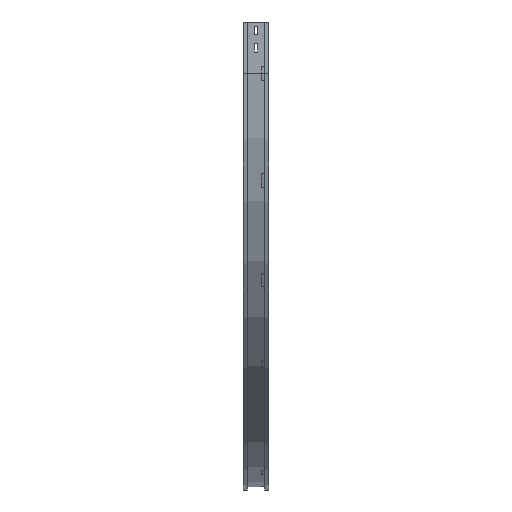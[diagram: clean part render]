
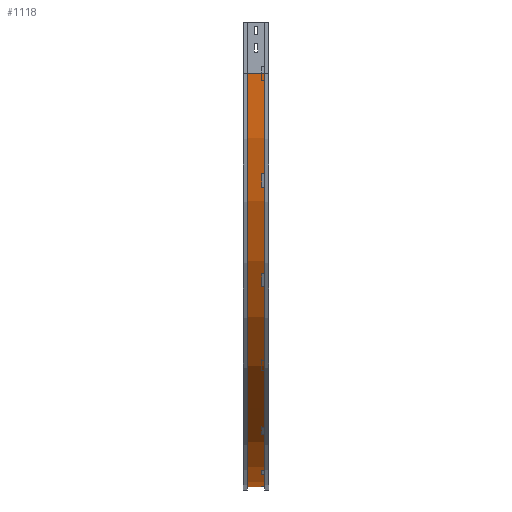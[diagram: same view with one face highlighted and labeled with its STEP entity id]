
A CAD part, left-side view. The second image highlights one B-rep face of the part: STEP entity #1118.
In plain terms, the highlighted cylindrical face has radius 1200 mm (diameter 2400 mm), a partial arc.
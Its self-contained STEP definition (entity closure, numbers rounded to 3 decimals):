
#30 = CARTESIAN_POINT ( 'NONE',  ( 1209., 12., -150. ) ) ;
#96 = EDGE_CURVE ( 'NONE', #876, #2362, #99, .T. ) ;
#99 = CIRCLE ( 'NONE', #2875, 1200. ) ;
#238 = CARTESIAN_POINT ( 'NONE',  ( 1209., 12., -1350. ) ) ;
#293 = DIRECTION ( 'NONE',  ( 0., -1., 0. ) ) ;
#496 = LINE ( 'NONE', #3165, #1750 ) ;
#502 = EDGE_CURVE ( 'NONE', #1424, #1576, #3446, .T. ) ;
#570 = CARTESIAN_POINT ( 'NONE',  ( 9., 63., -150. ) ) ;
#853 = CARTESIAN_POINT ( 'NONE',  ( 1209., 12., -1350. ) ) ;
#858 = CARTESIAN_POINT ( 'NONE',  ( 1209., 63., -150. ) ) ;
#876 = VERTEX_POINT ( 'NONE', #570 ) ;
#884 = AXIS2_PLACEMENT_3D ( 'NONE', #30, #293, #1593 ) ;
#927 = AXIS2_PLACEMENT_3D ( 'NONE', #2307, #2011, #3115 ) ;
#1113 = ORIENTED_EDGE ( 'NONE', *, *, #502, .F. ) ;
#1118 = ADVANCED_FACE ( 'NONE', ( #1535 ), #2841, .T. ) ;
#1418 = VECTOR ( 'NONE', #2976, 1000. ) ;
#1424 = VERTEX_POINT ( 'NONE', #3348 ) ;
#1468 = ORIENTED_EDGE ( 'NONE', *, *, #2244, .T. ) ;
#1497 = EDGE_LOOP ( 'NONE', ( #1113, #2556, #2278, #1468 ) ) ;
#1535 = FACE_OUTER_BOUND ( 'NONE', #1497, .T. ) ;
#1568 = DIRECTION ( 'NONE',  ( 0., -1., 0. ) ) ;
#1576 = VERTEX_POINT ( 'NONE', #238 ) ;
#1593 = DIRECTION ( 'NONE',  ( -1., 0., 0. ) ) ;
#1736 = CARTESIAN_POINT ( 'NONE',  ( 1209., 63., -1350. ) ) ;
#1750 = VECTOR ( 'NONE', #1568, 1000. ) ;
#2011 = DIRECTION ( 'NONE',  ( 0., -1., 0. ) ) ;
#2244 = EDGE_CURVE ( 'NONE', #2362, #1576, #3233, .T. ) ;
#2278 = ORIENTED_EDGE ( 'NONE', *, *, #96, .T. ) ;
#2307 = CARTESIAN_POINT ( 'NONE',  ( 1209., 0., -150. ) ) ;
#2362 = VERTEX_POINT ( 'NONE', #1736 ) ;
#2486 = EDGE_CURVE ( 'NONE', #876, #1424, #496, .T. ) ;
#2556 = ORIENTED_EDGE ( 'NONE', *, *, #2486, .F. ) ;
#2694 = DIRECTION ( 'NONE',  ( -1., 0., 0. ) ) ;
#2841 = CYLINDRICAL_SURFACE ( 'NONE', #927, 1200. ) ;
#2875 = AXIS2_PLACEMENT_3D ( 'NONE', #858, #2937, #2694 ) ;
#2937 = DIRECTION ( 'NONE',  ( 0., -1., 0. ) ) ;
#2976 = DIRECTION ( 'NONE',  ( 0., -1., 0. ) ) ;
#3115 = DIRECTION ( 'NONE',  ( 0., 0., -1. ) ) ;
#3165 = CARTESIAN_POINT ( 'NONE',  ( 9., 12., -150. ) ) ;
#3233 = LINE ( 'NONE', #853, #1418 ) ;
#3348 = CARTESIAN_POINT ( 'NONE',  ( 9., 12., -150. ) ) ;
#3446 = CIRCLE ( 'NONE', #884, 1200. ) ;
